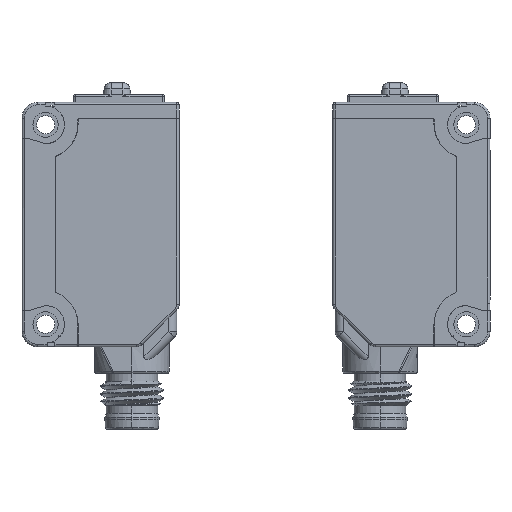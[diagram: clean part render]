
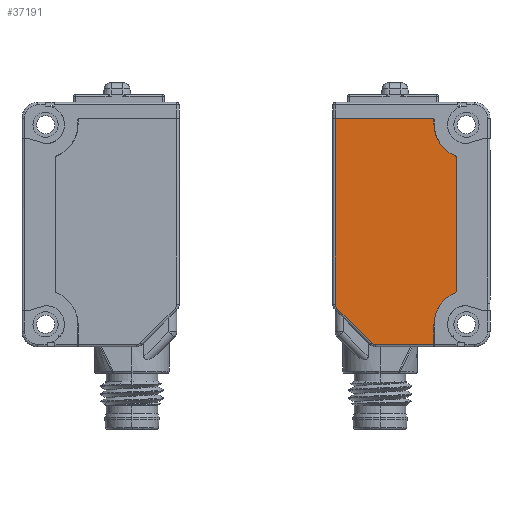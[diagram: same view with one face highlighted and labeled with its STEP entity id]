
A CAD part, left-side view. The second image highlights one B-rep face of the part: STEP entity #37191.
In plain terms, the highlighted planar face has unit normal (-1, 0, 0) as drawn and (1, 0, 0) by its records, which use the part's own axes.
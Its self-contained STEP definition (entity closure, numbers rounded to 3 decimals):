
#765 = ORIENTED_EDGE ( 'NONE', *, *, #10756, .F. ) ;
#791 = CIRCLE ( 'NONE', #59947, 0.3 ) ;
#1609 = VERTEX_POINT ( 'NONE', #42115 ) ;
#1711 = CARTESIAN_POINT ( 'NONE',  ( 5.55, 0.372, -9.798 ) ) ;
#2356 = EDGE_CURVE ( 'NONE', #23002, #1609, #49825, .T. ) ;
#2556 = VECTOR ( 'NONE', #25133, 1000. ) ;
#3285 = ORIENTED_EDGE ( 'NONE', *, *, #52613, .F. ) ;
#3626 = VERTEX_POINT ( 'NONE', #10147 ) ;
#4204 = DIRECTION ( 'NONE',  ( -1., 0., 0. ) ) ;
#4317 = EDGE_CURVE ( 'NONE', #53006, #39856, #41280, .T. ) ;
#4323 = ORIENTED_EDGE ( 'NONE', *, *, #2356, .F. ) ;
#4340 = EDGE_CURVE ( 'NONE', #59398, #21332, #5822, .T. ) ;
#5654 = DIRECTION ( 'NONE',  ( -1., 0., 0. ) ) ;
#5822 = CIRCLE ( 'NONE', #56107, 0.3 ) ;
#5930 = ORIENTED_EDGE ( 'NONE', *, *, #54619, .F. ) ;
#6355 = CARTESIAN_POINT ( 'NONE',  ( 5.55, 0.3, -9.436 ) ) ;
#6510 = LINE ( 'NONE', #48172, #17903 ) ;
#9913 = LINE ( 'NONE', #34310, #18499 ) ;
#9957 = EDGE_CURVE ( 'NONE', #19819, #53385, #34422, .T. ) ;
#10147 = CARTESIAN_POINT ( 'NONE',  ( 5.55, 12.563, 14.213 ) ) ;
#10509 = VECTOR ( 'NONE', #33193, 1000. ) ;
#10756 = EDGE_CURVE ( 'NONE', #39856, #3626, #9913, .T. ) ;
#11132 = CARTESIAN_POINT ( 'NONE',  ( 5.55, 5.414, -14.55 ) ) ;
#11753 = CARTESIAN_POINT ( 'NONE',  ( 5.55, 15.58, -7.953 ) ) ;
#11863 = LINE ( 'NONE', #35625, #2556 ) ;
#12798 = AXIS2_PLACEMENT_3D ( 'NONE', #14454, #14139, #23987 ) ;
#13139 = EDGE_CURVE ( 'NONE', #21332, #38927, #18701, .T. ) ;
#13714 = DIRECTION ( 'NONE',  ( 0., -0.707, 0.707 ) ) ;
#14139 = DIRECTION ( 'NONE',  ( -1., 0., 0. ) ) ;
#14405 = CARTESIAN_POINT ( 'NONE',  ( 5.55, 5.226, -14.55 ) ) ;
#14454 = CARTESIAN_POINT ( 'NONE',  ( 5.55, 0., 0. ) ) ;
#15900 = DIRECTION ( 'NONE',  ( 0., 0., -1. ) ) ;
#16064 = CARTESIAN_POINT ( 'NONE',  ( 5.55, 0.505, -9.931 ) ) ;
#17197 = ORIENTED_EDGE ( 'NONE', *, *, #4317, .F. ) ;
#17903 = VECTOR ( 'NONE', #47874, 1000. ) ;
#18177 = VERTEX_POINT ( 'NONE', #11753 ) ;
#18499 = VECTOR ( 'NONE', #42637, 1000. ) ;
#18616 = ORIENTED_EDGE ( 'NONE', *, *, #4340, .F. ) ;
#18697 = DIRECTION ( 'NONE',  ( 1., 0., 0. ) ) ;
#18701 = LINE ( 'NONE', #37518, #10509 ) ;
#18977 = VECTOR ( 'NONE', #15900, 1000. ) ;
#19819 = VERTEX_POINT ( 'NONE', #28308 ) ;
#20488 = EDGE_CURVE ( 'NONE', #59770, #23002, #11863, .T. ) ;
#20708 =( BOUNDED_CURVE ( )  B_SPLINE_CURVE ( 3, ( #53253, #1711, #39365, #58189 ),
 .UNSPECIFIED., .F., .F. ) 
 B_SPLINE_CURVE_WITH_KNOTS ( ( 4, 4 ),
 ( 0., 1. ),
 .UNSPECIFIED. ) 
 CURVE ( )  GEOMETRIC_REPRESENTATION_ITEM ( )  RATIONAL_B_SPLINE_CURVE ( ( 1., 0.949, 0.949, 1. ) ) 
 REPRESENTATION_ITEM ( '' )  );
#21332 = VERTEX_POINT ( 'NONE', #47105 ) ;
#21596 = EDGE_CURVE ( 'NONE', #1609, #60010, #23558, .T. ) ;
#21767 = EDGE_CURVE ( 'NONE', #38927, #18177, #31241, .T. ) ;
#23002 = VERTEX_POINT ( 'NONE', #11132 ) ;
#23558 = LINE ( 'NONE', #42114, #54864 ) ;
#23583 = ORIENTED_EDGE ( 'NONE', *, *, #29868, .F. ) ;
#23987 = DIRECTION ( 'NONE',  ( 0., 0., 1. ) ) ;
#25133 = DIRECTION ( 'NONE',  ( 0., -1., 0. ) ) ;
#25481 = CARTESIAN_POINT ( 'NONE',  ( 5.55, 15.763, -7.677 ) ) ;
#26866 = EDGE_LOOP ( 'NONE', ( #3285, #40727, #28391, #18616, #23583, #43709, #5930, #765, #17197, #45411, #31365, #4323, #27003, #37872 ) ) ;
#27003 = ORIENTED_EDGE ( 'NONE', *, *, #20488, .F. ) ;
#27206 = DIRECTION ( 'NONE',  ( 0., 0., -1. ) ) ;
#28308 = CARTESIAN_POINT ( 'NONE',  ( 5.55, 12.863, 13.913 ) ) ;
#28391 = ORIENTED_EDGE ( 'NONE', *, *, #13139, .F. ) ;
#29777 = DIRECTION ( 'NONE',  ( 0., 0., -1. ) ) ;
#29868 = EDGE_CURVE ( 'NONE', #53385, #59398, #43958, .T. ) ;
#30187 = DIRECTION ( 'NONE',  ( 1., 0., 0. ) ) ;
#30481 = DIRECTION ( 'NONE',  ( 0., 0., -1. ) ) ;
#31241 = CIRCLE ( 'NONE', #42102, 0.3 ) ;
#31365 = ORIENTED_EDGE ( 'NONE', *, *, #21596, .F. ) ;
#32067 = PLANE ( 'NONE',  #12798 ) ;
#32159 = AXIS2_PLACEMENT_3D ( 'NONE', #41850, #18697, #56642 ) ;
#32372 = EDGE_CURVE ( 'NONE', #53760, #59770, #6510, .T. ) ;
#33079 = CARTESIAN_POINT ( 'NONE',  ( 5.55, 12.863, 13.462 ) ) ;
#33193 = DIRECTION ( 'NONE',  ( 0., 0., -1. ) ) ;
#33228 = CARTESIAN_POINT ( 'NONE',  ( 5.55, 5.052, -14.478 ) ) ;
#34103 = EDGE_CURVE ( 'NONE', #60010, #53006, #20708, .T. ) ;
#34310 = CARTESIAN_POINT ( 'NONE',  ( 5.55, 0., 14.213 ) ) ;
#34422 = LINE ( 'NONE', #58181, #18977 ) ;
#35101 = CIRCLE ( 'NONE', #57799, 4.447 ) ;
#35625 = CARTESIAN_POINT ( 'NONE',  ( 5.55, 0., -14.55 ) ) ;
#36025 = CARTESIAN_POINT ( 'NONE',  ( 5.55, 15.576, 9.442 ) ) ;
#37191 = ADVANCED_FACE ( 'NONE', ( #56423 ), #32067, .F. ) ;
#37518 = CARTESIAN_POINT ( 'NONE',  ( 5.55, 15.763, 0. ) ) ;
#37872 = ORIENTED_EDGE ( 'NONE', *, *, #32372, .F. ) ;
#38927 = VERTEX_POINT ( 'NONE', #25481 ) ;
#39165 = CARTESIAN_POINT ( 'NONE',  ( 5.55, 17.31, -12.05 ) ) ;
#39365 = CARTESIAN_POINT ( 'NONE',  ( 5.55, 0.3, -9.624 ) ) ;
#39856 = VERTEX_POINT ( 'NONE', #45701 ) ;
#40727 = ORIENTED_EDGE ( 'NONE', *, *, #21767, .F. ) ;
#41280 = LINE ( 'NONE', #60094, #43280 ) ;
#41676 = CARTESIAN_POINT ( 'NONE',  ( 5.55, 12.863, -12.05 ) ) ;
#41850 = CARTESIAN_POINT ( 'NONE',  ( 5.55, 17.2, 13.462 ) ) ;
#42102 = AXIS2_PLACEMENT_3D ( 'NONE', #43600, #5654, #58117 ) ;
#42114 = CARTESIAN_POINT ( 'NONE',  ( 5.55, 4.919, -14.345 ) ) ;
#42115 = CARTESIAN_POINT ( 'NONE',  ( 5.55, 4.919, -14.345 ) ) ;
#42637 = DIRECTION ( 'NONE',  ( 0., 1., 0. ) ) ;
#43280 = VECTOR ( 'NONE', #46494, 1000. ) ;
#43600 = CARTESIAN_POINT ( 'NONE',  ( 5.55, 15.463, -7.677 ) ) ;
#43709 = ORIENTED_EDGE ( 'NONE', *, *, #9957, .F. ) ;
#43958 = CIRCLE ( 'NONE', #32159, 4.337 ) ;
#45411 = ORIENTED_EDGE ( 'NONE', *, *, #34103, .F. ) ;
#45701 = CARTESIAN_POINT ( 'NONE',  ( 5.55, 0.3, 14.213 ) ) ;
#46208 = CARTESIAN_POINT ( 'NONE',  ( 5.55, 15.463, 9.163 ) ) ;
#46353 = CARTESIAN_POINT ( 'NONE',  ( 5.55, 12.563, 13.913 ) ) ;
#46494 = DIRECTION ( 'NONE',  ( 0., 0., 1. ) ) ;
#47105 = CARTESIAN_POINT ( 'NONE',  ( 5.55, 15.763, 9.163 ) ) ;
#47874 = DIRECTION ( 'NONE',  ( 0., 0., -1. ) ) ;
#48172 = CARTESIAN_POINT ( 'NONE',  ( 5.55, 12.863, 0. ) ) ;
#49825 =( BOUNDED_CURVE ( )  B_SPLINE_CURVE ( 3, ( #56687, #14405, #33228, #52059 ),
 .UNSPECIFIED., .F., .F. ) 
 B_SPLINE_CURVE_WITH_KNOTS ( ( 4, 4 ),
 ( 0., 1. ),
 .UNSPECIFIED. ) 
 CURVE ( )  GEOMETRIC_REPRESENTATION_ITEM ( )  RATIONAL_B_SPLINE_CURVE ( ( 1., 0.949, 0.949, 1. ) ) 
 REPRESENTATION_ITEM ( '' )  );
#50136 = CARTESIAN_POINT ( 'NONE',  ( 5.55, 12.863, -14.55 ) ) ;
#52059 = CARTESIAN_POINT ( 'NONE',  ( 5.55, 4.919, -14.345 ) ) ;
#52613 = EDGE_CURVE ( 'NONE', #18177, #53760, #35101, .T. ) ;
#53006 = VERTEX_POINT ( 'NONE', #6355 ) ;
#53253 = CARTESIAN_POINT ( 'NONE',  ( 5.55, 0.505, -9.931 ) ) ;
#53385 = VERTEX_POINT ( 'NONE', #33079 ) ;
#53760 = VERTEX_POINT ( 'NONE', #41676 ) ;
#54619 = EDGE_CURVE ( 'NONE', #3626, #19819, #791, .T. ) ;
#54864 = VECTOR ( 'NONE', #13714, 1000. ) ;
#55298 = DIRECTION ( 'NONE',  ( -1., 0., 0. ) ) ;
#56107 = AXIS2_PLACEMENT_3D ( 'NONE', #46208, #4204, #29777 ) ;
#56423 = FACE_OUTER_BOUND ( 'NONE', #26866, .T. ) ;
#56642 = DIRECTION ( 'NONE',  ( 0., 0., -1. ) ) ;
#56687 = CARTESIAN_POINT ( 'NONE',  ( 5.55, 5.414, -14.55 ) ) ;
#57799 = AXIS2_PLACEMENT_3D ( 'NONE', #39165, #30187, #30481 ) ;
#58117 = DIRECTION ( 'NONE',  ( 0., 0., -1. ) ) ;
#58181 = CARTESIAN_POINT ( 'NONE',  ( 5.55, 12.863, 0. ) ) ;
#58189 = CARTESIAN_POINT ( 'NONE',  ( 5.55, 0.3, -9.436 ) ) ;
#59398 = VERTEX_POINT ( 'NONE', #36025 ) ;
#59770 = VERTEX_POINT ( 'NONE', #50136 ) ;
#59947 = AXIS2_PLACEMENT_3D ( 'NONE', #46353, #55298, #27206 ) ;
#60010 = VERTEX_POINT ( 'NONE', #16064 ) ;
#60094 = CARTESIAN_POINT ( 'NONE',  ( 5.55, 0.3, 0. ) ) ;
